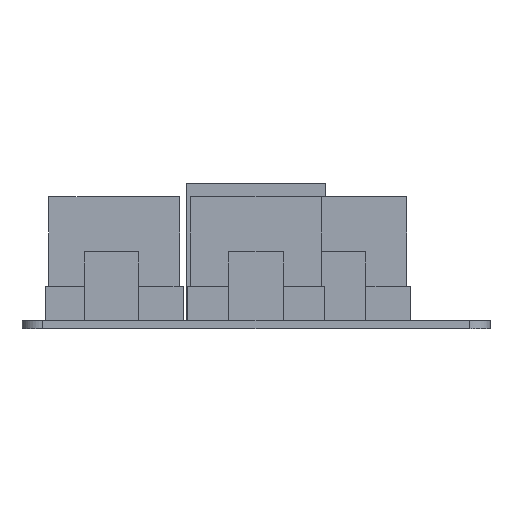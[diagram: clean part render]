
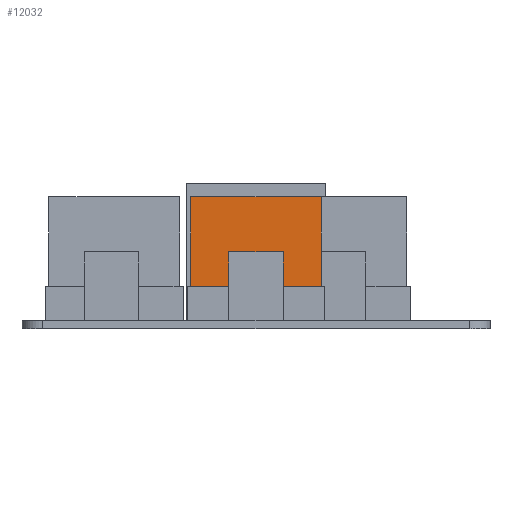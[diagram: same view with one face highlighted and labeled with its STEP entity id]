
A CAD part, front view. The second image highlights one B-rep face of the part: STEP entity #12032.
In plain terms, the highlighted planar face has unit normal (0, -1, 0).
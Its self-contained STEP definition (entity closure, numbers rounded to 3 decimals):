
#11816 = EDGE_CURVE('',#11817,#11819,#11821,.T.);
#11817 = VERTEX_POINT('',#11818);
#11818 = CARTESIAN_POINT('',(24.5,18.514,6.2));
#11819 = VERTEX_POINT('',#11820);
#11820 = CARTESIAN_POINT('',(24.5,18.514,19.2));
#11821 = SURFACE_CURVE('',#11822,(#11826,#11838),.PCURVE_S1.);
#11822 = LINE('',#11823,#11824);
#11823 = CARTESIAN_POINT('',(24.5,18.514,6.2));
#11824 = VECTOR('',#11825,1.);
#11825 = DIRECTION('',(0.,0.,1.));
#11826 = PCURVE('',#11827,#11832);
#11827 = PLANE('',#11828);
#11828 = AXIS2_PLACEMENT_3D('',#11829,#11830,#11831);
#11829 = CARTESIAN_POINT('',(24.5,18.514,6.2));
#11830 = DIRECTION('',(1.,0.,-0.));
#11831 = DIRECTION('',(0.,0.,1.));
#11832 = DEFINITIONAL_REPRESENTATION('',(#11833),#11837);
#11833 = LINE('',#11834,#11835);
#11834 = CARTESIAN_POINT('',(0.,0.));
#11835 = VECTOR('',#11836,1.);
#11836 = DIRECTION('',(1.,0.));
#11837 = ( GEOMETRIC_REPRESENTATION_CONTEXT(2) 
PARAMETRIC_REPRESENTATION_CONTEXT() REPRESENTATION_CONTEXT('2D SPACE',''
  ) );
#11838 = PCURVE('',#11839,#11844);
#11839 = PLANE('',#11840);
#11840 = AXIS2_PLACEMENT_3D('',#11841,#11842,#11843);
#11841 = CARTESIAN_POINT('',(24.5,18.514,6.2));
#11842 = DIRECTION('',(-0.,1.,0.));
#11843 = DIRECTION('',(0.,0.,1.));
#11844 = DEFINITIONAL_REPRESENTATION('',(#11845),#11849);
#11845 = LINE('',#11846,#11847);
#11846 = CARTESIAN_POINT('',(0.,0.));
#11847 = VECTOR('',#11848,1.);
#11848 = DIRECTION('',(1.,0.));
#11849 = ( GEOMETRIC_REPRESENTATION_CONTEXT(2) 
PARAMETRIC_REPRESENTATION_CONTEXT() REPRESENTATION_CONTEXT('2D SPACE',''
  ) );
#11867 = PLANE('',#11868);
#11868 = AXIS2_PLACEMENT_3D('',#11869,#11870,#11871);
#11869 = CARTESIAN_POINT('',(24.5,18.514,6.2));
#11870 = DIRECTION('',(0.,0.,1.));
#11871 = DIRECTION('',(1.,0.,-0.));
#11921 = PLANE('',#11922);
#11922 = AXIS2_PLACEMENT_3D('',#11923,#11924,#11925);
#11923 = CARTESIAN_POINT('',(24.5,18.514,19.2));
#11924 = DIRECTION('',(0.,0.,1.));
#11925 = DIRECTION('',(1.,0.,-0.));
#11936 = EDGE_CURVE('',#11937,#11939,#11941,.T.);
#11937 = VERTEX_POINT('',#11938);
#11938 = CARTESIAN_POINT('',(43.5,18.514,6.2));
#11939 = VERTEX_POINT('',#11940);
#11940 = CARTESIAN_POINT('',(43.5,18.514,19.2));
#11941 = SURFACE_CURVE('',#11942,(#11946,#11958),.PCURVE_S1.);
#11942 = LINE('',#11943,#11944);
#11943 = CARTESIAN_POINT('',(43.5,18.514,6.2));
#11944 = VECTOR('',#11945,1.);
#11945 = DIRECTION('',(0.,0.,1.));
#11946 = PCURVE('',#11947,#11952);
#11947 = PLANE('',#11948);
#11948 = AXIS2_PLACEMENT_3D('',#11949,#11950,#11951);
#11949 = CARTESIAN_POINT('',(43.5,18.514,6.2));
#11950 = DIRECTION('',(1.,0.,-0.));
#11951 = DIRECTION('',(0.,0.,1.));
#11952 = DEFINITIONAL_REPRESENTATION('',(#11953),#11957);
#11953 = LINE('',#11954,#11955);
#11954 = CARTESIAN_POINT('',(0.,0.));
#11955 = VECTOR('',#11956,1.);
#11956 = DIRECTION('',(1.,0.));
#11957 = ( GEOMETRIC_REPRESENTATION_CONTEXT(2) 
PARAMETRIC_REPRESENTATION_CONTEXT() REPRESENTATION_CONTEXT('2D SPACE',''
  ) );
#11958 = PCURVE('',#11839,#11959);
#11959 = DEFINITIONAL_REPRESENTATION('',(#11960),#11964);
#11960 = LINE('',#11961,#11962);
#11961 = CARTESIAN_POINT('',(0.,19.));
#11962 = VECTOR('',#11963,1.);
#11963 = DIRECTION('',(1.,0.));
#11964 = ( GEOMETRIC_REPRESENTATION_CONTEXT(2) 
PARAMETRIC_REPRESENTATION_CONTEXT() REPRESENTATION_CONTEXT('2D SPACE',''
  ) );
#12032 = ADVANCED_FACE('',(#12033),#11839,.F.);
#12033 = FACE_BOUND('',#12034,.F.);
#12034 = EDGE_LOOP('',(#12035,#12056,#12057,#12078));
#12035 = ORIENTED_EDGE('',*,*,#12036,.F.);
#12036 = EDGE_CURVE('',#11817,#11937,#12037,.T.);
#12037 = SURFACE_CURVE('',#12038,(#12042,#12049),.PCURVE_S1.);
#12038 = LINE('',#12039,#12040);
#12039 = CARTESIAN_POINT('',(24.5,18.514,6.2));
#12040 = VECTOR('',#12041,1.);
#12041 = DIRECTION('',(1.,0.,-0.));
#12042 = PCURVE('',#11839,#12043);
#12043 = DEFINITIONAL_REPRESENTATION('',(#12044),#12048);
#12044 = LINE('',#12045,#12046);
#12045 = CARTESIAN_POINT('',(0.,0.));
#12046 = VECTOR('',#12047,1.);
#12047 = DIRECTION('',(0.,1.));
#12048 = ( GEOMETRIC_REPRESENTATION_CONTEXT(2) 
PARAMETRIC_REPRESENTATION_CONTEXT() REPRESENTATION_CONTEXT('2D SPACE',''
  ) );
#12049 = PCURVE('',#11867,#12050);
#12050 = DEFINITIONAL_REPRESENTATION('',(#12051),#12055);
#12051 = LINE('',#12052,#12053);
#12052 = CARTESIAN_POINT('',(0.,0.));
#12053 = VECTOR('',#12054,1.);
#12054 = DIRECTION('',(1.,0.));
#12055 = ( GEOMETRIC_REPRESENTATION_CONTEXT(2) 
PARAMETRIC_REPRESENTATION_CONTEXT() REPRESENTATION_CONTEXT('2D SPACE',''
  ) );
#12056 = ORIENTED_EDGE('',*,*,#11816,.T.);
#12057 = ORIENTED_EDGE('',*,*,#12058,.T.);
#12058 = EDGE_CURVE('',#11819,#11939,#12059,.T.);
#12059 = SURFACE_CURVE('',#12060,(#12064,#12071),.PCURVE_S1.);
#12060 = LINE('',#12061,#12062);
#12061 = CARTESIAN_POINT('',(24.5,18.514,19.2));
#12062 = VECTOR('',#12063,1.);
#12063 = DIRECTION('',(1.,0.,-0.));
#12064 = PCURVE('',#11839,#12065);
#12065 = DEFINITIONAL_REPRESENTATION('',(#12066),#12070);
#12066 = LINE('',#12067,#12068);
#12067 = CARTESIAN_POINT('',(13.,0.));
#12068 = VECTOR('',#12069,1.);
#12069 = DIRECTION('',(0.,1.));
#12070 = ( GEOMETRIC_REPRESENTATION_CONTEXT(2) 
PARAMETRIC_REPRESENTATION_CONTEXT() REPRESENTATION_CONTEXT('2D SPACE',''
  ) );
#12071 = PCURVE('',#11921,#12072);
#12072 = DEFINITIONAL_REPRESENTATION('',(#12073),#12077);
#12073 = LINE('',#12074,#12075);
#12074 = CARTESIAN_POINT('',(0.,0.));
#12075 = VECTOR('',#12076,1.);
#12076 = DIRECTION('',(1.,0.));
#12077 = ( GEOMETRIC_REPRESENTATION_CONTEXT(2) 
PARAMETRIC_REPRESENTATION_CONTEXT() REPRESENTATION_CONTEXT('2D SPACE',''
  ) );
#12078 = ORIENTED_EDGE('',*,*,#11936,.F.);
